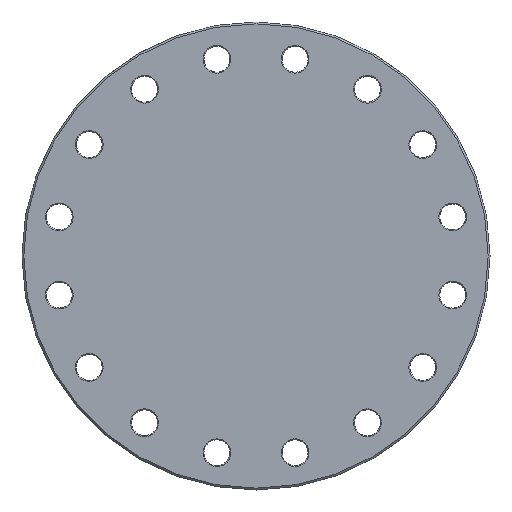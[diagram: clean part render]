
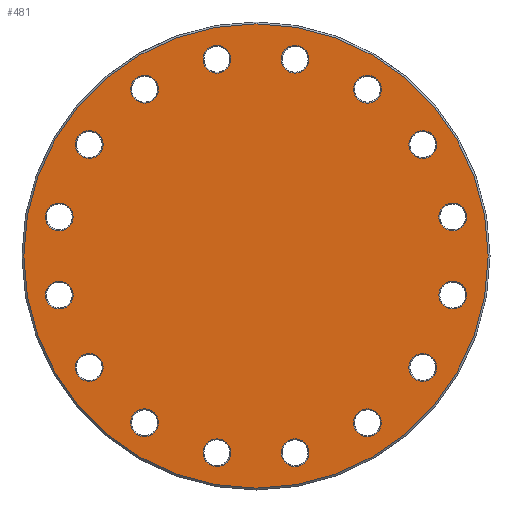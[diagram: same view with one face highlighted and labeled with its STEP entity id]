
A CAD part, left-side view. The second image highlights one B-rep face of the part: STEP entity #481.
In plain terms, the highlighted planar face has unit normal (-1, 0, 0).
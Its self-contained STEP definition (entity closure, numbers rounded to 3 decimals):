
#274=CARTESIAN_POINT('',(-20.,75.4,0.));
#275=VERTEX_POINT('',#274);
#276=CARTESIAN_POINT('',(-20.,0.,0.0));
#277=DIRECTION('',(1.0,0.0,0.0));
#278=DIRECTION('',(0.0,-1.0,0.0));
#279=AXIS2_PLACEMENT_3D('',#276,#277,#278);
#280=CIRCLE('',#279,75.4);
#281=EDGE_CURVE('',#275,#275,#280,.T.);
#297=CARTESIAN_POINT('',(-20.,38.,0.0));
#298=DIRECTION('',(-1.0,0.0,0.0));
#299=DIRECTION('',(0.0,0.0,1.0));
#300=AXIS2_PLACEMENT_3D('',#297,#298,#299);
#301=PLANE('',#300);
#302=ORIENTED_EDGE('',*,*,#281,.F.);
#303=EDGE_LOOP('',(#302));
#304=FACE_OUTER_BOUND('',#303,.T.);
#305=CARTESIAN_POINT('',(-20.,55.892,-32.038));
#306=VERTEX_POINT('',#305);
#307=CARTESIAN_POINT('',(-20.,54.17,-36.195));
#308=DIRECTION('',(-1.,0.,0.));
#309=DIRECTION('',(0.,-0.383,-0.924));
#310=AXIS2_PLACEMENT_3D('',#307,#308,#309);
#311=CIRCLE('',#310,4.5);
#312=EDGE_CURVE('',#306,#306,#311,.T.);
#313=ORIENTED_EDGE('',*,*,#312,.F.);
#314=EDGE_LOOP('',(#313));
#315=FACE_BOUND('',#314,.T.);
#316=CARTESIAN_POINT('',(-20.,16.868,-62.176));
#317=VERTEX_POINT('',#316);
#318=CARTESIAN_POINT('',(-20.,12.71,-63.898));
#319=DIRECTION('',(-1.,0.,0.));
#320=DIRECTION('',(0.,-0.924,-0.383));
#321=AXIS2_PLACEMENT_3D('',#318,#319,#320);
#322=CIRCLE('',#321,4.5);
#323=EDGE_CURVE('',#317,#317,#322,.T.);
#324=ORIENTED_EDGE('',*,*,#323,.F.);
#325=EDGE_LOOP('',(#324));
#326=FACE_BOUND('',#325,.T.);
#327=CARTESIAN_POINT('',(-20.,-32.038,-55.892));
#328=VERTEX_POINT('',#327);
#329=CARTESIAN_POINT('',(-20.,-36.195,-54.17));
#330=DIRECTION('',(-1.,0.,0.));
#331=DIRECTION('',(0.,-0.924,0.383));
#332=AXIS2_PLACEMENT_3D('',#329,#330,#331);
#333=CIRCLE('',#332,4.5);
#334=EDGE_CURVE('',#328,#328,#333,.T.);
#335=ORIENTED_EDGE('',*,*,#334,.F.);
#336=EDGE_LOOP('',(#335));
#337=FACE_BOUND('',#336,.T.);
#338=CARTESIAN_POINT('',(-20.,-62.176,-16.868));
#339=VERTEX_POINT('',#338);
#340=CARTESIAN_POINT('',(-20.,-63.898,-12.71));
#341=DIRECTION('',(-1.,0.,0.));
#342=DIRECTION('',(0.,-0.383,0.924));
#343=AXIS2_PLACEMENT_3D('',#340,#341,#342);
#344=CIRCLE('',#343,4.5);
#345=EDGE_CURVE('',#339,#339,#344,.T.);
#346=ORIENTED_EDGE('',*,*,#345,.F.);
#347=EDGE_LOOP('',(#346));
#348=FACE_BOUND('',#347,.T.);
#349=CARTESIAN_POINT('',(-20.,-55.892,32.038));
#350=VERTEX_POINT('',#349);
#351=CARTESIAN_POINT('',(-20.,-54.17,36.195));
#352=DIRECTION('',(-1.0,0.,0.));
#353=DIRECTION('',(0.,0.383,0.924));
#354=AXIS2_PLACEMENT_3D('',#351,#352,#353);
#355=CIRCLE('',#354,4.5);
#356=EDGE_CURVE('',#350,#350,#355,.T.);
#357=ORIENTED_EDGE('',*,*,#356,.F.);
#358=EDGE_LOOP('',(#357));
#359=FACE_BOUND('',#358,.T.);
#360=CARTESIAN_POINT('',(-20.,-16.868,62.176));
#361=VERTEX_POINT('',#360);
#362=CARTESIAN_POINT('',(-20.,-12.71,63.898));
#363=DIRECTION('',(-1.0,0.,0.));
#364=DIRECTION('',(0.,0.924,0.383));
#365=AXIS2_PLACEMENT_3D('',#362,#363,#364);
#366=CIRCLE('',#365,4.5);
#367=EDGE_CURVE('',#361,#361,#366,.T.);
#368=ORIENTED_EDGE('',*,*,#367,.F.);
#369=EDGE_LOOP('',(#368));
#370=FACE_BOUND('',#369,.T.);
#371=CARTESIAN_POINT('',(-20.,32.038,55.892));
#372=VERTEX_POINT('',#371);
#373=CARTESIAN_POINT('',(-20.,36.195,54.17));
#374=DIRECTION('',(-1.,0.,0.));
#375=DIRECTION('',(0.,0.924,-0.383));
#376=AXIS2_PLACEMENT_3D('',#373,#374,#375);
#377=CIRCLE('',#376,4.5);
#378=EDGE_CURVE('',#372,#372,#377,.T.);
#379=ORIENTED_EDGE('',*,*,#378,.F.);
#380=EDGE_LOOP('',(#379));
#381=FACE_BOUND('',#380,.T.);
#382=CARTESIAN_POINT('',(-20.,62.176,16.868));
#383=VERTEX_POINT('',#382);
#384=CARTESIAN_POINT('',(-20.,63.898,12.71));
#385=DIRECTION('',(-1.,0.,0.));
#386=DIRECTION('',(0.,0.383,-0.924));
#387=AXIS2_PLACEMENT_3D('',#384,#385,#386);
#388=CIRCLE('',#387,4.5);
#389=EDGE_CURVE('',#383,#383,#388,.T.);
#390=ORIENTED_EDGE('',*,*,#389,.F.);
#391=EDGE_LOOP('',(#390));
#392=FACE_BOUND('',#391,.T.);
#393=CARTESIAN_POINT('',(-20.,63.898,-8.21));
#394=VERTEX_POINT('',#393);
#395=CARTESIAN_POINT('',(-20.,63.898,-12.71));
#396=DIRECTION('',(-1.0,0.0,0.0));
#397=DIRECTION('',(0.0,0.0,-1.0));
#398=AXIS2_PLACEMENT_3D('',#395,#396,#397);
#399=CIRCLE('',#398,4.5);
#400=EDGE_CURVE('',#394,#394,#399,.T.);
#401=ORIENTED_EDGE('',*,*,#400,.F.);
#402=EDGE_LOOP('',(#401));
#403=FACE_BOUND('',#402,.T.);
#404=CARTESIAN_POINT('',(-20.,50.988,39.377));
#405=VERTEX_POINT('',#404);
#406=CARTESIAN_POINT('',(-20.,54.17,36.195));
#407=DIRECTION('',(-1.,0.,0.));
#408=DIRECTION('',(0.,0.707,-0.707));
#409=AXIS2_PLACEMENT_3D('',#406,#407,#408);
#410=CIRCLE('',#409,4.5);
#411=EDGE_CURVE('',#405,#405,#410,.T.);
#412=ORIENTED_EDGE('',*,*,#411,.F.);
#413=EDGE_LOOP('',(#412));
#414=FACE_BOUND('',#413,.T.);
#415=CARTESIAN_POINT('',(-20.0,8.21,63.898));
#416=VERTEX_POINT('',#415);
#417=CARTESIAN_POINT('',(-20.,12.71,63.898));
#418=DIRECTION('',(-1.0,0.0,0.0));
#419=DIRECTION('',(0.0,1.0,0.0));
#420=AXIS2_PLACEMENT_3D('',#417,#418,#419);
#421=CIRCLE('',#420,4.5);
#422=EDGE_CURVE('',#416,#416,#421,.T.);
#423=ORIENTED_EDGE('',*,*,#422,.F.);
#424=EDGE_LOOP('',(#423));
#425=FACE_BOUND('',#424,.T.);
#426=CARTESIAN_POINT('',(-20.,-39.377,50.988));
#427=VERTEX_POINT('',#426);
#428=CARTESIAN_POINT('',(-20.,-36.195,54.17));
#429=DIRECTION('',(-1.0,0.,0.));
#430=DIRECTION('',(0.,0.707,0.707));
#431=AXIS2_PLACEMENT_3D('',#428,#429,#430);
#432=CIRCLE('',#431,4.5);
#433=EDGE_CURVE('',#427,#427,#432,.T.);
#434=ORIENTED_EDGE('',*,*,#433,.F.);
#435=EDGE_LOOP('',(#434));
#436=FACE_BOUND('',#435,.T.);
#437=CARTESIAN_POINT('',(-20.,-63.898,8.21));
#438=VERTEX_POINT('',#437);
#439=CARTESIAN_POINT('',(-20.,-63.898,12.71));
#440=DIRECTION('',(-1.0,0.0,0.0));
#441=DIRECTION('',(0.0,0.0,1.0));
#442=AXIS2_PLACEMENT_3D('',#439,#440,#441);
#443=CIRCLE('',#442,4.5);
#444=EDGE_CURVE('',#438,#438,#443,.T.);
#445=ORIENTED_EDGE('',*,*,#444,.F.);
#446=EDGE_LOOP('',(#445));
#447=FACE_BOUND('',#446,.T.);
#448=CARTESIAN_POINT('',(-20.,-50.988,-39.377));
#449=VERTEX_POINT('',#448);
#450=CARTESIAN_POINT('',(-20.,-54.17,-36.195));
#451=DIRECTION('',(-1.,0.,0.));
#452=DIRECTION('',(0.,-0.707,0.707));
#453=AXIS2_PLACEMENT_3D('',#450,#451,#452);
#454=CIRCLE('',#453,4.5);
#455=EDGE_CURVE('',#449,#449,#454,.T.);
#456=ORIENTED_EDGE('',*,*,#455,.F.);
#457=EDGE_LOOP('',(#456));
#458=FACE_BOUND('',#457,.T.);
#459=CARTESIAN_POINT('',(-20.,-8.21,-63.898));
#460=VERTEX_POINT('',#459);
#461=CARTESIAN_POINT('',(-20.,-12.71,-63.898));
#462=DIRECTION('',(-1.0,0.0,0.0));
#463=DIRECTION('',(0.0,-1.0,0.0));
#464=AXIS2_PLACEMENT_3D('',#461,#462,#463);
#465=CIRCLE('',#464,4.5);
#466=EDGE_CURVE('',#460,#460,#465,.T.);
#467=ORIENTED_EDGE('',*,*,#466,.F.);
#468=EDGE_LOOP('',(#467));
#469=FACE_BOUND('',#468,.T.);
#470=CARTESIAN_POINT('',(-20.,39.377,-50.988));
#471=VERTEX_POINT('',#470);
#472=CARTESIAN_POINT('',(-20.,36.195,-54.17));
#473=DIRECTION('',(-1.0,0.,0.));
#474=DIRECTION('',(0.,-0.707,-0.707));
#475=AXIS2_PLACEMENT_3D('',#472,#473,#474);
#476=CIRCLE('',#475,4.5);
#477=EDGE_CURVE('',#471,#471,#476,.T.);
#478=ORIENTED_EDGE('',*,*,#477,.F.);
#479=EDGE_LOOP('',(#478));
#480=FACE_BOUND('',#479,.T.);
#481=ADVANCED_FACE('',(#304,#315,#326,#337,#348,#359,#370,#381,#392,#403,#414,#425,#436,#447,#458,#469,#480),#301,.T.);
